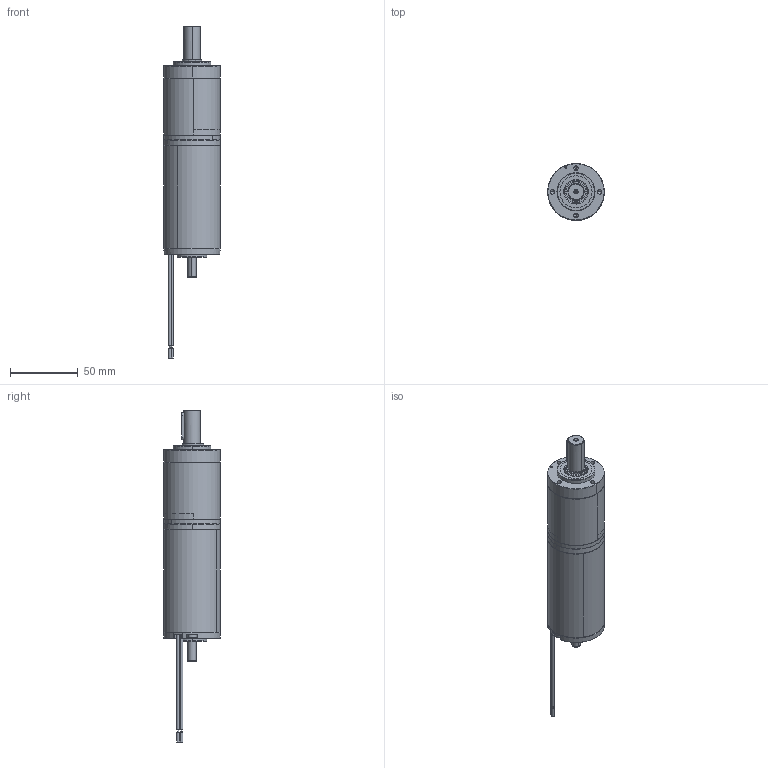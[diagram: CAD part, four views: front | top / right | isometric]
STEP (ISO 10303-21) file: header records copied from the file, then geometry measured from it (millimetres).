
FILE_DESCRIPTION (( 'STEP AP214' ), '1' );
FILE_NAME ('BRx42-40-PGx42 (2 Stage).STEP', '2025-05-13T06:16:56', ( '' ), ( '' ), 'SwSTEP 2.0', 'SolidWorks 2023', '' );
FILE_SCHEMA (( 'AUTOMOTIVE_DESIGN' ));
Length unit declared in the file: millimetre
Products named in the file (1): BRx42-40-PGx42 (2 Stage)
Bounding box: 42 x 42 x 245.65 mm (x, y, z)
Volume: 112673 mm3; surface area: 61051.6 mm2
Topology: 22 solids, 24 shells, 1650 faces, 3933 edges, 2449 vertices
Faces by surface type: plane 538, cylinder 352, cone 310, torus 240, bspline 186, sphere 24
Entity records: 75987 total; most frequent: CARTESIAN_POINT 20167, ORIENTED_EDGE 7826, DIRECTION 7758, EDGE_CURVE 3913, AXIS2_PLACEMENT_3D 3172, VERTEX_POINT 2449, EDGE_LOOP 1840, CIRCLE 1707
